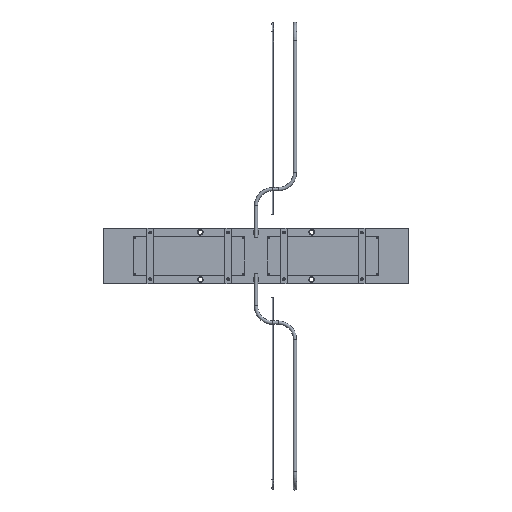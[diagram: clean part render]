
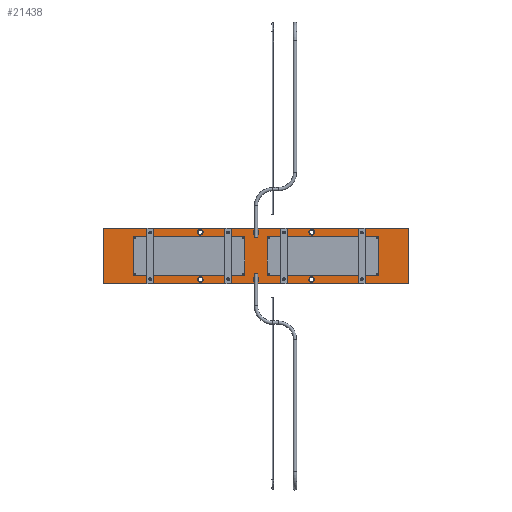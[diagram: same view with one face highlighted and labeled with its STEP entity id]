
A CAD part, top view. The second image highlights one B-rep face of the part: STEP entity #21438.
In plain terms, the highlighted planar face has unit normal (0, 0, 1).
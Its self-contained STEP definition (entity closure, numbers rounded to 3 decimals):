
#21374 = VERTEX_POINT('',#21375);
#21375 = CARTESIAN_POINT('',(-550.,-100.,162.));
#21390 = VERTEX_POINT('',#21391);
#21391 = CARTESIAN_POINT('',(-550.,100.,162.));
#21397 = EDGE_CURVE('',#21374,#21390,#21398,.T.);
#21398 = LINE('',#21399,#21400);
#21399 = CARTESIAN_POINT('',(-550.,-100.,162.));
#21400 = VECTOR('',#21401,1.);
#21401 = DIRECTION('',(0.,1.,0.));
#21420 = EDGE_CURVE('',#21374,#21421,#21423,.T.);
#21421 = VERTEX_POINT('',#21422);
#21422 = CARTESIAN_POINT('',(550.,-100.,162.));
#21423 = LINE('',#21424,#21425);
#21424 = CARTESIAN_POINT('',(-550.,-100.,162.));
#21425 = VECTOR('',#21426,1.);
#21426 = DIRECTION('',(1.,0.,0.));
#21438 = ADVANCED_FACE('',(#21439,#21457,#21468,#21479,#21490,#21501,
    #21512,#21523,#21534,#21545,#21556,#21567,#21578,#21589,#21600),
  #21611,.T.);
#21439 = FACE_BOUND('',#21440,.T.);
#21440 = EDGE_LOOP('',(#21441,#21442,#21443,#21451));
#21441 = ORIENTED_EDGE('',*,*,#21397,.F.);
#21442 = ORIENTED_EDGE('',*,*,#21420,.T.);
#21443 = ORIENTED_EDGE('',*,*,#21444,.T.);
#21444 = EDGE_CURVE('',#21421,#21445,#21447,.T.);
#21445 = VERTEX_POINT('',#21446);
#21446 = CARTESIAN_POINT('',(550.,100.,162.));
#21447 = LINE('',#21448,#21449);
#21448 = CARTESIAN_POINT('',(550.,-100.,162.));
#21449 = VECTOR('',#21450,1.);
#21450 = DIRECTION('',(0.,1.,0.));
#21451 = ORIENTED_EDGE('',*,*,#21452,.F.);
#21452 = EDGE_CURVE('',#21390,#21445,#21453,.T.);
#21453 = LINE('',#21454,#21455);
#21454 = CARTESIAN_POINT('',(-550.,100.,162.));
#21455 = VECTOR('',#21456,1.);
#21456 = DIRECTION('',(1.,0.,0.));
#21457 = FACE_BOUND('',#21458,.T.);
#21458 = EDGE_LOOP('',(#21459));
#21459 = ORIENTED_EDGE('',*,*,#21460,.F.);
#21460 = EDGE_CURVE('',#21461,#21461,#21463,.T.);
#21461 = VERTEX_POINT('',#21462);
#21462 = CARTESIAN_POINT('',(-377.25,-84.,162.));
#21463 = CIRCLE('',#21464,2.75);
#21464 = AXIS2_PLACEMENT_3D('',#21465,#21466,#21467);
#21465 = CARTESIAN_POINT('',(-380.,-84.,162.));
#21466 = DIRECTION('',(0.,0.,1.));
#21467 = DIRECTION('',(1.,0.,0.));
#21468 = FACE_BOUND('',#21469,.T.);
#21469 = EDGE_LOOP('',(#21470));
#21470 = ORIENTED_EDGE('',*,*,#21471,.F.);
#21471 = EDGE_CURVE('',#21472,#21472,#21474,.T.);
#21472 = VERTEX_POINT('',#21473);
#21473 = CARTESIAN_POINT('',(-190.,-85.,162.));
#21474 = CIRCLE('',#21475,10.);
#21475 = AXIS2_PLACEMENT_3D('',#21476,#21477,#21478);
#21476 = CARTESIAN_POINT('',(-200.,-85.,162.));
#21477 = DIRECTION('',(0.,0.,1.));
#21478 = DIRECTION('',(1.,0.,0.));
#21479 = FACE_BOUND('',#21480,.T.);
#21480 = EDGE_LOOP('',(#21481));
#21481 = ORIENTED_EDGE('',*,*,#21482,.F.);
#21482 = EDGE_CURVE('',#21483,#21483,#21485,.T.);
#21483 = VERTEX_POINT('',#21484);
#21484 = CARTESIAN_POINT('',(-97.25,-84.,162.));
#21485 = CIRCLE('',#21486,2.75);
#21486 = AXIS2_PLACEMENT_3D('',#21487,#21488,#21489);
#21487 = CARTESIAN_POINT('',(-100.,-84.,162.));
#21488 = DIRECTION('',(0.,0.,1.));
#21489 = DIRECTION('',(1.,0.,0.));
#21490 = FACE_BOUND('',#21491,.T.);
#21491 = EDGE_LOOP('',(#21492));
#21492 = ORIENTED_EDGE('',*,*,#21493,.F.);
#21493 = EDGE_CURVE('',#21494,#21494,#21496,.T.);
#21494 = VERTEX_POINT('',#21495);
#21495 = CARTESIAN_POINT('',(10.,-85.,162.));
#21496 = CIRCLE('',#21497,10.);
#21497 = AXIS2_PLACEMENT_3D('',#21498,#21499,#21500);
#21498 = CARTESIAN_POINT('',(0.,-85.,162.));
#21499 = DIRECTION('',(0.,0.,1.));
#21500 = DIRECTION('',(1.,0.,0.));
#21501 = FACE_BOUND('',#21502,.T.);
#21502 = EDGE_LOOP('',(#21503));
#21503 = ORIENTED_EDGE('',*,*,#21504,.F.);
#21504 = EDGE_CURVE('',#21505,#21505,#21507,.T.);
#21505 = VERTEX_POINT('',#21506);
#21506 = CARTESIAN_POINT('',(102.75,-84.,162.));
#21507 = CIRCLE('',#21508,2.75);
#21508 = AXIS2_PLACEMENT_3D('',#21509,#21510,#21511);
#21509 = CARTESIAN_POINT('',(100.,-84.,162.));
#21510 = DIRECTION('',(0.,0.,1.));
#21511 = DIRECTION('',(1.,0.,0.));
#21512 = FACE_BOUND('',#21513,.T.);
#21513 = EDGE_LOOP('',(#21514));
#21514 = ORIENTED_EDGE('',*,*,#21515,.F.);
#21515 = EDGE_CURVE('',#21516,#21516,#21518,.T.);
#21516 = VERTEX_POINT('',#21517);
#21517 = CARTESIAN_POINT('',(210.,-85.,162.));
#21518 = CIRCLE('',#21519,10.);
#21519 = AXIS2_PLACEMENT_3D('',#21520,#21521,#21522);
#21520 = CARTESIAN_POINT('',(200.,-85.,162.));
#21521 = DIRECTION('',(0.,0.,1.));
#21522 = DIRECTION('',(1.,0.,0.));
#21523 = FACE_BOUND('',#21524,.T.);
#21524 = EDGE_LOOP('',(#21525));
#21525 = ORIENTED_EDGE('',*,*,#21526,.F.);
#21526 = EDGE_CURVE('',#21527,#21527,#21529,.T.);
#21527 = VERTEX_POINT('',#21528);
#21528 = CARTESIAN_POINT('',(382.75,-84.,162.));
#21529 = CIRCLE('',#21530,2.75);
#21530 = AXIS2_PLACEMENT_3D('',#21531,#21532,#21533);
#21531 = CARTESIAN_POINT('',(380.,-84.,162.));
#21532 = DIRECTION('',(0.,0.,1.));
#21533 = DIRECTION('',(1.,0.,0.));
#21534 = FACE_BOUND('',#21535,.T.);
#21535 = EDGE_LOOP('',(#21536));
#21536 = ORIENTED_EDGE('',*,*,#21537,.F.);
#21537 = EDGE_CURVE('',#21538,#21538,#21540,.T.);
#21538 = VERTEX_POINT('',#21539);
#21539 = CARTESIAN_POINT('',(-377.25,84.,162.));
#21540 = CIRCLE('',#21541,2.75);
#21541 = AXIS2_PLACEMENT_3D('',#21542,#21543,#21544);
#21542 = CARTESIAN_POINT('',(-380.,84.,162.));
#21543 = DIRECTION('',(0.,0.,1.));
#21544 = DIRECTION('',(1.,0.,0.));
#21545 = FACE_BOUND('',#21546,.T.);
#21546 = EDGE_LOOP('',(#21547));
#21547 = ORIENTED_EDGE('',*,*,#21548,.F.);
#21548 = EDGE_CURVE('',#21549,#21549,#21551,.T.);
#21549 = VERTEX_POINT('',#21550);
#21550 = CARTESIAN_POINT('',(-190.,85.,162.));
#21551 = CIRCLE('',#21552,10.);
#21552 = AXIS2_PLACEMENT_3D('',#21553,#21554,#21555);
#21553 = CARTESIAN_POINT('',(-200.,85.,162.));
#21554 = DIRECTION('',(0.,0.,1.));
#21555 = DIRECTION('',(1.,0.,0.));
#21556 = FACE_BOUND('',#21557,.T.);
#21557 = EDGE_LOOP('',(#21558));
#21558 = ORIENTED_EDGE('',*,*,#21559,.F.);
#21559 = EDGE_CURVE('',#21560,#21560,#21562,.T.);
#21560 = VERTEX_POINT('',#21561);
#21561 = CARTESIAN_POINT('',(-97.25,84.,162.));
#21562 = CIRCLE('',#21563,2.75);
#21563 = AXIS2_PLACEMENT_3D('',#21564,#21565,#21566);
#21564 = CARTESIAN_POINT('',(-100.,84.,162.));
#21565 = DIRECTION('',(0.,0.,1.));
#21566 = DIRECTION('',(1.,0.,0.));
#21567 = FACE_BOUND('',#21568,.T.);
#21568 = EDGE_LOOP('',(#21569));
#21569 = ORIENTED_EDGE('',*,*,#21570,.F.);
#21570 = EDGE_CURVE('',#21571,#21571,#21573,.T.);
#21571 = VERTEX_POINT('',#21572);
#21572 = CARTESIAN_POINT('',(10.,85.,162.));
#21573 = CIRCLE('',#21574,10.);
#21574 = AXIS2_PLACEMENT_3D('',#21575,#21576,#21577);
#21575 = CARTESIAN_POINT('',(0.,85.,162.));
#21576 = DIRECTION('',(0.,0.,1.));
#21577 = DIRECTION('',(1.,0.,0.));
#21578 = FACE_BOUND('',#21579,.T.);
#21579 = EDGE_LOOP('',(#21580));
#21580 = ORIENTED_EDGE('',*,*,#21581,.F.);
#21581 = EDGE_CURVE('',#21582,#21582,#21584,.T.);
#21582 = VERTEX_POINT('',#21583);
#21583 = CARTESIAN_POINT('',(102.75,84.,162.));
#21584 = CIRCLE('',#21585,2.75);
#21585 = AXIS2_PLACEMENT_3D('',#21586,#21587,#21588);
#21586 = CARTESIAN_POINT('',(100.,84.,162.));
#21587 = DIRECTION('',(0.,0.,1.));
#21588 = DIRECTION('',(1.,0.,0.));
#21589 = FACE_BOUND('',#21590,.T.);
#21590 = EDGE_LOOP('',(#21591));
#21591 = ORIENTED_EDGE('',*,*,#21592,.F.);
#21592 = EDGE_CURVE('',#21593,#21593,#21595,.T.);
#21593 = VERTEX_POINT('',#21594);
#21594 = CARTESIAN_POINT('',(210.,85.,162.));
#21595 = CIRCLE('',#21596,10.);
#21596 = AXIS2_PLACEMENT_3D('',#21597,#21598,#21599);
#21597 = CARTESIAN_POINT('',(200.,85.,162.));
#21598 = DIRECTION('',(0.,0.,1.));
#21599 = DIRECTION('',(1.,0.,0.));
#21600 = FACE_BOUND('',#21601,.T.);
#21601 = EDGE_LOOP('',(#21602));
#21602 = ORIENTED_EDGE('',*,*,#21603,.F.);
#21603 = EDGE_CURVE('',#21604,#21604,#21606,.T.);
#21604 = VERTEX_POINT('',#21605);
#21605 = CARTESIAN_POINT('',(382.75,84.,162.));
#21606 = CIRCLE('',#21607,2.75);
#21607 = AXIS2_PLACEMENT_3D('',#21608,#21609,#21610);
#21608 = CARTESIAN_POINT('',(380.,84.,162.));
#21609 = DIRECTION('',(0.,0.,1.));
#21610 = DIRECTION('',(1.,0.,0.));
#21611 = PLANE('',#21612);
#21612 = AXIS2_PLACEMENT_3D('',#21613,#21614,#21615);
#21613 = CARTESIAN_POINT('',(-550.,-100.,162.));
#21614 = DIRECTION('',(0.,0.,1.));
#21615 = DIRECTION('',(1.,0.,0.));
